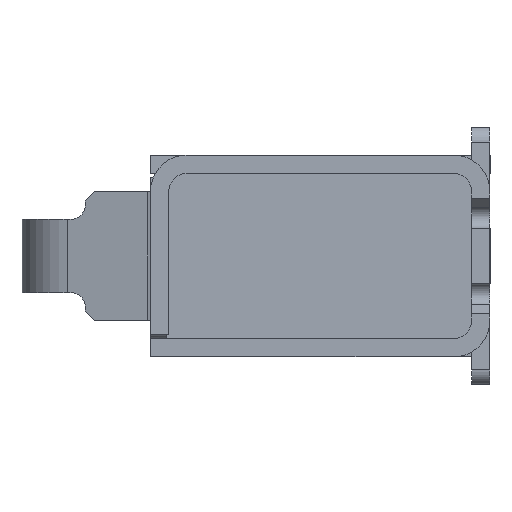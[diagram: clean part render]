
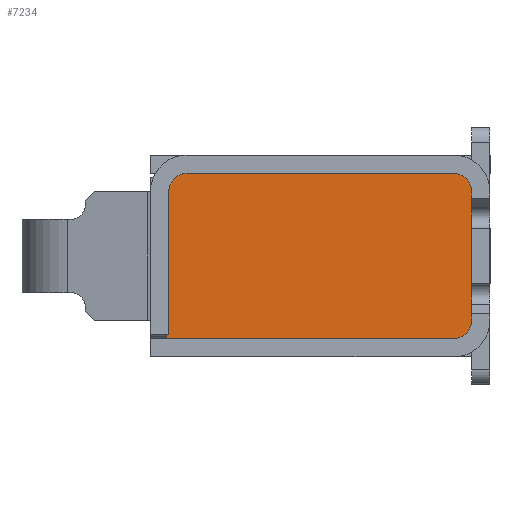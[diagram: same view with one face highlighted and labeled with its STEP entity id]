
A CAD part, left-side view. The second image highlights one B-rep face of the part: STEP entity #7234.
In plain terms, the highlighted planar face has unit normal (-1, 0, 0).
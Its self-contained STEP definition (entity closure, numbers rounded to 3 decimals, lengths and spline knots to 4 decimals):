
#78=DIRECTION('',(0.,0.,-1.));
#79=VECTOR('',#78,1.56);
#80=CARTESIAN_POINT('',(-1.26,-0.45,-0.2));
#81=LINE('',#80,#79);
#287=DIRECTION('',(0.,1.,0.));
#288=VECTOR('',#287,0.0649);
#289=CARTESIAN_POINT('',(-1.26,-0.35,-0.1));
#290=LINE('',#289,#288);
#299=DIRECTION('',(0.,1.,0.));
#300=VECTOR('',#299,0.3);
#301=CARTESIAN_POINT('',(-1.26,-0.15,-0.1));
#302=LINE('',#301,#300);
#315=DIRECTION('',(0.,1.,0.));
#316=VECTOR('',#315,0.0649);
#317=CARTESIAN_POINT('',(-1.26,0.2851,-0.1));
#318=LINE('',#317,#316);
#1018=DIRECTION('',(0.,0.,-1.));
#1019=VECTOR('',#1018,1.45);
#1020=CARTESIAN_POINT('',(-1.26,0.45,-0.2));
#1021=LINE('',#1020,#1019);
#1330=DIRECTION('',(0.,0.,-1.));
#1331=VECTOR('',#1330,0.01);
#1332=CARTESIAN_POINT('',(-1.26,-0.43,-1.75));
#1333=LINE('',#1332,#1331);
#1379=DIRECTION('',(0.,-1.,0.));
#1380=VECTOR('',#1379,0.78);
#1381=CARTESIAN_POINT('',(-1.26,0.35,-1.75));
#1382=LINE('',#1381,#1380);
#2305=DIRECTION('',(0.,-1.,0.));
#2306=VECTOR('',#2305,0.02);
#2307=CARTESIAN_POINT('',(-1.26,-0.43,-1.76));
#2308=LINE('',#2307,#2306);
#2309=DIRECTION('',(0.,1.,0.));
#2310=VECTOR('',#2309,0.1351);
#2311=CARTESIAN_POINT('',(-1.26,0.15,-0.1));
#2312=LINE('',#2311,#2310);
#2313=DIRECTION('',(0.,1.,0.));
#2314=VECTOR('',#2313,0.1351);
#2315=CARTESIAN_POINT('',(-1.26,-0.2851,-0.1));
#2316=LINE('',#2315,#2314);
#2317=CARTESIAN_POINT('',(-1.26,0.35,-1.65));
#2318=DIRECTION('',(-1.,0.,0.));
#2319=DIRECTION('',(0.,1.,0.));
#2320=AXIS2_PLACEMENT_3D('',#2317,#2318,#2319);
#2327=CARTESIAN_POINT('',(-1.26,0.35,-0.2));
#2328=DIRECTION('',(1.,0.,0.));
#2329=DIRECTION('',(0.,1.,0.));
#2330=AXIS2_PLACEMENT_3D('',#2327,#2328,#2329);
#2341=CARTESIAN_POINT('',(-1.26,-0.35,-0.2));
#2342=DIRECTION('',(1.,0.,0.));
#2343=DIRECTION('',(0.,0.,1.));
#2344=AXIS2_PLACEMENT_3D('',#2341,#2342,#2343);
#3954=CARTESIAN_POINT('',(-1.26,-0.45,-0.2));
#3955=CARTESIAN_POINT('',(-1.26,-0.45,-1.76));
#3956=VERTEX_POINT('',#3954);
#3957=VERTEX_POINT('',#3955);
#3958=CARTESIAN_POINT('',(-1.26,-0.35,-0.1));
#3959=CARTESIAN_POINT('',(-1.26,-0.2851,-0.1));
#3960=VERTEX_POINT('',#3958);
#3961=VERTEX_POINT('',#3959);
#3962=CARTESIAN_POINT('',(-1.26,-0.15,-0.1));
#3963=CARTESIAN_POINT('',(-1.26,0.15,-0.1));
#3964=VERTEX_POINT('',#3962);
#3965=VERTEX_POINT('',#3963);
#3966=CARTESIAN_POINT('',(-1.26,0.2851,-0.1));
#3967=CARTESIAN_POINT('',(-1.26,0.35,-0.1));
#3968=VERTEX_POINT('',#3966);
#3969=VERTEX_POINT('',#3967);
#3970=CARTESIAN_POINT('',(-1.26,0.45,-0.2));
#3971=CARTESIAN_POINT('',(-1.26,0.45,-1.65));
#3972=VERTEX_POINT('',#3970);
#3973=VERTEX_POINT('',#3971);
#3974=CARTESIAN_POINT('',(-1.26,0.35,-1.75));
#3975=CARTESIAN_POINT('',(-1.26,-0.43,-1.75));
#3976=VERTEX_POINT('',#3974);
#3977=VERTEX_POINT('',#3975);
#4000=CARTESIAN_POINT('',(-1.26,-0.43,-1.76));
#4001=VERTEX_POINT('',#4000);
#7211=CARTESIAN_POINT('',(-1.26,-0.55,0.));
#7212=DIRECTION('',(-1.,0.,0.));
#7213=DIRECTION('',(0.,1.,0.));
#7214=AXIS2_PLACEMENT_3D('',#7211,#7212,#7213);
#7215=PLANE('',#7214);
#7216=ORIENTED_EDGE('',*,*,#4120,.T.);
#7217=ORIENTED_EDGE('',*,*,#6105,.F.);
#7218=ORIENTED_EDGE('',*,*,#5922,.F.);
#7219=ORIENTED_EDGE('',*,*,#5982,.F.);
#7221=ORIENTED_EDGE('',*,*,#7220,.F.);
#7222=ORIENTED_EDGE('',*,*,#5577,.F.);
#7224=ORIENTED_EDGE('',*,*,#7223,.T.);
#7225=ORIENTED_EDGE('',*,*,#4485,.F.);
#7226=ORIENTED_EDGE('',*,*,#4706,.F.);
#7227=ORIENTED_EDGE('',*,*,#4469,.F.);
#7228=ORIENTED_EDGE('',*,*,#4686,.F.);
#7229=ORIENTED_EDGE('',*,*,#4453,.F.);
#7231=ORIENTED_EDGE('',*,*,#7230,.T.);
#7232=EDGE_LOOP('',(#7216,#7217,#7218,#7219,#7221,#7222,#7224,#7225,#7226,#7227,
#7228,#7229,#7231));
#7233=FACE_OUTER_BOUND('',#7232,.F.);
#7234=ADVANCED_FACE('',(#7233),#7215,.T.);
#2321=CIRCLE('',#2320,0.1);
#2331=CIRCLE('',#2330,0.1);
#2345=CIRCLE('',#2344,0.1);
#4120=EDGE_CURVE('',#3956,#3957,#81,.T.);
#4453=EDGE_CURVE('',#3960,#3961,#290,.T.);
#4469=EDGE_CURVE('',#3964,#3965,#302,.T.);
#4485=EDGE_CURVE('',#3968,#3969,#318,.T.);
#4686=EDGE_CURVE('',#3961,#3964,#2316,.T.);
#4706=EDGE_CURVE('',#3965,#3968,#2312,.T.);
#5577=EDGE_CURVE('',#3972,#3973,#1021,.T.);
#5922=EDGE_CURVE('',#3977,#4001,#1333,.T.);
#5982=EDGE_CURVE('',#3976,#3977,#1382,.T.);
#6105=EDGE_CURVE('',#4001,#3957,#2308,.T.);
#7220=EDGE_CURVE('',#3973,#3976,#2321,.T.);
#7223=EDGE_CURVE('',#3972,#3969,#2331,.T.);
#7230=EDGE_CURVE('',#3960,#3956,#2345,.T.);
